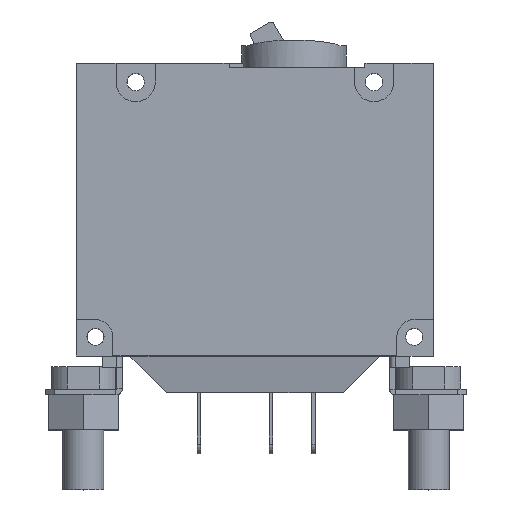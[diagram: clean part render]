
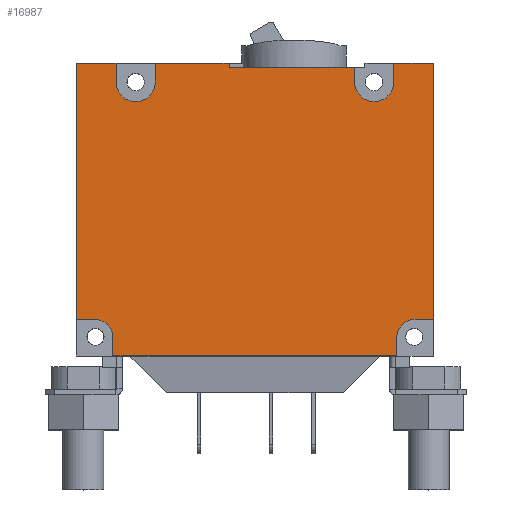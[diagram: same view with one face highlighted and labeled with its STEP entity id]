
A CAD part, top view. The second image highlights one B-rep face of the part: STEP entity #16987.
In plain terms, the highlighted planar face has unit normal (0, 0, 1).
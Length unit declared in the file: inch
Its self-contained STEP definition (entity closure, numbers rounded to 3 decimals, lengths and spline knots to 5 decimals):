
#3464=DIRECTION('',(-1.,0.,0.));
#3465=VECTOR('',#3464,0.70264);
#3466=CARTESIAN_POINT('',(1.558,1.822,0.30229));
#3467=LINE('',#3466,#3465);
#3468=DIRECTION('',(0.,-1.,0.));
#3469=VECTOR('',#3468,0.082);
#3470=CARTESIAN_POINT('',(1.558,1.822,0.30229));
#3471=LINE('',#3470,#3469);
#3472=CARTESIAN_POINT('',(1.668,1.74,0.30229));
#3473=DIRECTION('',(0.,0.,1.));
#3474=DIRECTION('',(-1.,0.,0.));
#3475=AXIS2_PLACEMENT_3D('',#3472,#3473,#3474);
#3477=DIRECTION('',(0.,-1.,0.));
#3478=VECTOR('',#3477,0.105);
#3479=CARTESIAN_POINT('',(1.778,1.845,0.30229));
#3480=LINE('',#3479,#3478);
#3481=DIRECTION('',(1.,0.,0.));
#3482=VECTOR('',#3481,0.222);
#3483=CARTESIAN_POINT('',(1.778,1.845,0.30229));
#3484=LINE('',#3483,#3482);
#3485=DIRECTION('',(0.,-1.,0.));
#3486=VECTOR('',#3485,1.435);
#3487=CARTESIAN_POINT('',(2.,1.845,0.30229));
#3488=LINE('',#3487,#3486);
#3489=DIRECTION('',(-1.,0.,0.));
#3490=VECTOR('',#3489,0.1025);
#3491=CARTESIAN_POINT('',(2.,0.41,0.30229));
#3492=LINE('',#3491,#3490);
#3493=CARTESIAN_POINT('',(1.8975,0.3075,0.30229));
#3494=DIRECTION('',(0.,0.,1.));
#3495=DIRECTION('',(0.,1.,0.));
#3496=AXIS2_PLACEMENT_3D('',#3493,#3494,#3495);
#3498=DIRECTION('',(0.,1.,0.));
#3499=VECTOR('',#3498,0.1025);
#3500=CARTESIAN_POINT('',(1.795,0.205,0.30229));
#3501=LINE('',#3500,#3499);
#3502=DIRECTION('',(-1.,0.,0.));
#3503=VECTOR('',#3502,1.59);
#3504=CARTESIAN_POINT('',(1.795,0.205,0.30229));
#3505=LINE('',#3504,#3503);
#3506=DIRECTION('',(0.,1.,0.));
#3507=VECTOR('',#3506,0.1025);
#3508=CARTESIAN_POINT('',(0.205,0.205,0.30229));
#3509=LINE('',#3508,#3507);
#3510=CARTESIAN_POINT('',(0.1025,0.3075,0.30229));
#3511=DIRECTION('',(0.,0.,1.));
#3512=DIRECTION('',(1.,0.,0.));
#3513=AXIS2_PLACEMENT_3D('',#3510,#3511,#3512);
#3515=DIRECTION('',(1.,0.,0.));
#3516=VECTOR('',#3515,0.1025);
#3517=CARTESIAN_POINT('',(0.,0.41,0.30229));
#3518=LINE('',#3517,#3516);
#3519=DIRECTION('',(0.,1.,0.));
#3520=VECTOR('',#3519,1.435);
#3521=CARTESIAN_POINT('',(0.,0.41,0.30229));
#3522=LINE('',#3521,#3520);
#3523=DIRECTION('',(1.,0.,0.));
#3524=VECTOR('',#3523,0.222);
#3525=CARTESIAN_POINT('',(0.,1.845,0.30229));
#3526=LINE('',#3525,#3524);
#3527=DIRECTION('',(0.,-1.,0.));
#3528=VECTOR('',#3527,0.105);
#3529=CARTESIAN_POINT('',(0.222,1.845,0.30229));
#3530=LINE('',#3529,#3528);
#3531=CARTESIAN_POINT('',(0.332,1.74,0.30229));
#3532=DIRECTION('',(0.,0.,1.));
#3533=DIRECTION('',(-1.,0.,0.));
#3534=AXIS2_PLACEMENT_3D('',#3531,#3532,#3533);
#3536=DIRECTION('',(0.,-1.,0.));
#3537=VECTOR('',#3536,0.105);
#3538=CARTESIAN_POINT('',(0.442,1.845,0.30229));
#3539=LINE('',#3538,#3537);
#3540=DIRECTION('',(1.,0.,0.));
#3541=VECTOR('',#3540,0.41336);
#3542=CARTESIAN_POINT('',(0.442,1.845,0.30229));
#3543=LINE('',#3542,#3541);
#3544=DIRECTION('',(0.,-1.,0.));
#3545=VECTOR('',#3544,0.023);
#3546=CARTESIAN_POINT('',(0.85536,1.845,0.30229));
#3547=LINE('',#3546,#3545);
#10980=CARTESIAN_POINT('',(1.558,1.74,0.30229));
#10981=CARTESIAN_POINT('',(1.778,1.74,0.30229));
#10982=VERTEX_POINT('',#10980);
#10983=VERTEX_POINT('',#10981);
#10984=CARTESIAN_POINT('',(1.778,1.845,0.30229));
#10985=VERTEX_POINT('',#10984);
#10986=CARTESIAN_POINT('',(0.222,1.74,0.30229));
#10987=CARTESIAN_POINT('',(0.442,1.74,0.30229));
#10988=VERTEX_POINT('',#10986);
#10989=VERTEX_POINT('',#10987);
#10990=CARTESIAN_POINT('',(0.442,1.845,0.30229));
#10991=VERTEX_POINT('',#10990);
#10992=CARTESIAN_POINT('',(0.222,1.845,0.30229));
#10993=VERTEX_POINT('',#10992);
#11000=CARTESIAN_POINT('',(0.,1.845,0.30229));
#11001=VERTEX_POINT('',#11000);
#11002=CARTESIAN_POINT('',(2.,1.845,0.30229));
#11003=VERTEX_POINT('',#11002);
#11022=CARTESIAN_POINT('',(0.205,0.205,0.30229));
#11023=CARTESIAN_POINT('',(0.205,0.3075,0.30229));
#11024=VERTEX_POINT('',#11022);
#11025=VERTEX_POINT('',#11023);
#11026=CARTESIAN_POINT('',(0.1025,0.41,0.30229));
#11027=VERTEX_POINT('',#11026);
#11028=CARTESIAN_POINT('',(0.,0.41,0.30229));
#11029=VERTEX_POINT('',#11028);
#11030=CARTESIAN_POINT('',(2.,0.41,0.30229));
#11031=CARTESIAN_POINT('',(1.8975,0.41,0.30229));
#11032=VERTEX_POINT('',#11030);
#11033=VERTEX_POINT('',#11031);
#11034=CARTESIAN_POINT('',(1.795,0.3075,0.30229));
#11035=VERTEX_POINT('',#11034);
#11036=CARTESIAN_POINT('',(1.795,0.205,0.30229));
#11037=VERTEX_POINT('',#11036);
#11418=CARTESIAN_POINT('',(1.558,1.822,0.30229));
#11419=CARTESIAN_POINT('',(0.85536,1.822,0.30229));
#11420=VERTEX_POINT('',#11418);
#11421=VERTEX_POINT('',#11419);
#11422=CARTESIAN_POINT('',(0.85536,1.845,0.30229));
#11424=VERTEX_POINT('',#11422);
#16946=CARTESIAN_POINT('',(1.22,1.72,0.30229));
#16947=DIRECTION('',(0.,0.,-1.));
#16948=DIRECTION('',(-1.,0.,0.));
#16949=AXIS2_PLACEMENT_3D('',#16946,#16947,#16948);
#16950=PLANE('',#16949);
#16952=ORIENTED_EDGE('',*,*,#16951,.F.);
#16954=ORIENTED_EDGE('',*,*,#16953,.T.);
#16956=ORIENTED_EDGE('',*,*,#16955,.T.);
#16958=ORIENTED_EDGE('',*,*,#16957,.F.);
#16960=ORIENTED_EDGE('',*,*,#16959,.T.);
#16961=ORIENTED_EDGE('',*,*,#16852,.T.);
#16963=ORIENTED_EDGE('',*,*,#16962,.T.);
#16965=ORIENTED_EDGE('',*,*,#16964,.T.);
#16966=ORIENTED_EDGE('',*,*,#16937,.F.);
#16967=ORIENTED_EDGE('',*,*,#13346,.T.);
#16969=ORIENTED_EDGE('',*,*,#16968,.T.);
#16971=ORIENTED_EDGE('',*,*,#16970,.T.);
#16973=ORIENTED_EDGE('',*,*,#16972,.F.);
#16974=ORIENTED_EDGE('',*,*,#13467,.T.);
#16975=ORIENTED_EDGE('',*,*,#13514,.T.);
#16977=ORIENTED_EDGE('',*,*,#16976,.T.);
#16979=ORIENTED_EDGE('',*,*,#16978,.T.);
#16981=ORIENTED_EDGE('',*,*,#16980,.F.);
#16982=ORIENTED_EDGE('',*,*,#13506,.T.);
#16984=ORIENTED_EDGE('',*,*,#16983,.T.);
#16985=EDGE_LOOP('',(#16952,#16954,#16956,#16958,#16960,#16961,#16963,#16965,
#16966,#16967,#16969,#16971,#16973,#16974,#16975,#16977,#16979,#16981,#16982,
#16984));
#16986=FACE_OUTER_BOUND('',#16985,.F.);
#3476=CIRCLE('',#3475,0.11);
#3497=CIRCLE('',#3496,0.1025);
#3514=CIRCLE('',#3513,0.1025);
#3535=CIRCLE('',#3534,0.11);
#13346=EDGE_CURVE('',#11037,#11024,#3505,.T.);
#13467=EDGE_CURVE('',#11029,#11001,#3522,.T.);
#13506=EDGE_CURVE('',#10991,#11424,#3543,.T.);
#13514=EDGE_CURVE('',#11001,#10993,#3526,.T.);
#16852=EDGE_CURVE('',#11003,#11032,#3488,.T.);
#16937=EDGE_CURVE('',#11037,#11035,#3501,.T.);
#16951=EDGE_CURVE('',#11420,#11421,#3467,.T.);
#16953=EDGE_CURVE('',#11420,#10982,#3471,.T.);
#16955=EDGE_CURVE('',#10982,#10983,#3476,.T.);
#16957=EDGE_CURVE('',#10985,#10983,#3480,.T.);
#16959=EDGE_CURVE('',#10985,#11003,#3484,.T.);
#16962=EDGE_CURVE('',#11032,#11033,#3492,.T.);
#16964=EDGE_CURVE('',#11033,#11035,#3497,.T.);
#16968=EDGE_CURVE('',#11024,#11025,#3509,.T.);
#16970=EDGE_CURVE('',#11025,#11027,#3514,.T.);
#16972=EDGE_CURVE('',#11029,#11027,#3518,.T.);
#16976=EDGE_CURVE('',#10993,#10988,#3530,.T.);
#16978=EDGE_CURVE('',#10988,#10989,#3535,.T.);
#16980=EDGE_CURVE('',#10991,#10989,#3539,.T.);
#16983=EDGE_CURVE('',#11424,#11421,#3547,.T.);
#16987=ADVANCED_FACE('',(#16986),#16950,.F.);
